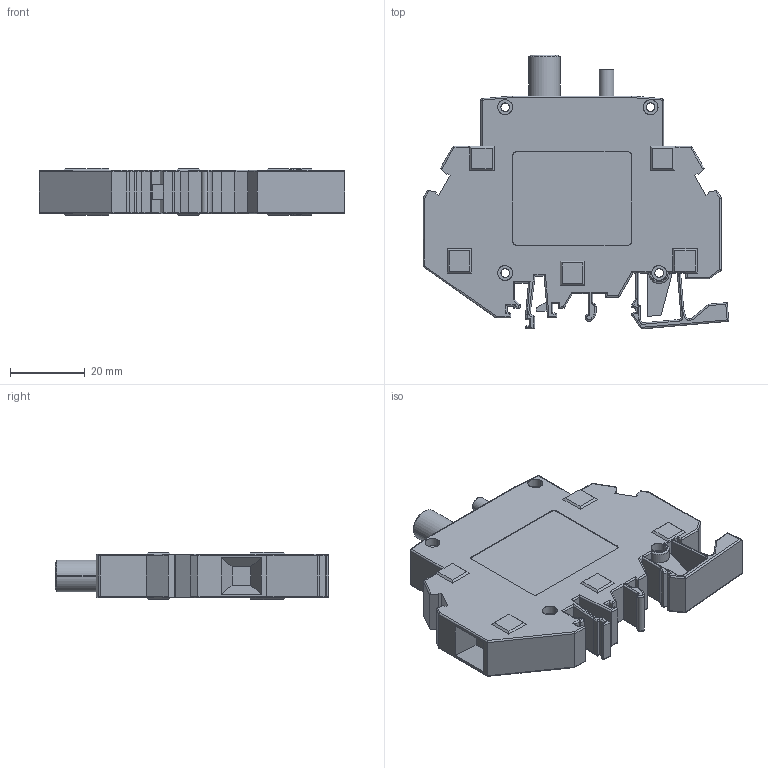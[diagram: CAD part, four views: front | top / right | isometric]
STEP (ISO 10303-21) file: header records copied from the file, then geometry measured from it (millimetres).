
FILE_DESCRIPTION((''),'2;1');
FILE_NAME('1492-GH-PRT','2015-06-12T',('KMKocher'),('Rockwell Automation'),'PRO/ENGINEER BY PARAMETRIC TECHNOLOGY CORPORATION, 2012480','PRO/ENGINEER BY PARAMETRIC TECHNOLOGY CORPORATION, 2012480','');
FILE_SCHEMA(('CONFIG_CONTROL_DESIGN'));
Length unit declared in the file: millimetre
Products named in the file (1): 1492-GH-PRT
Bounding box: 82 x 73.5 x 12.7 mm (x, y, z)
Surface area: 14265.3 mm2 (no closed solid volume)
Topology: 0 solids, 415 shells, 415 faces, 2022 edges, 2022 vertices
Faces by surface type: cylinder 208, plane 187, torus 12, sphere 4, bspline 2, cone 2
Entity records: 22326 total; most frequent: CARTESIAN_POINT 7463, DIRECTION 2596, VERTEX_POINT 2022, ORIENTED_EDGE 2022, EDGE_CURVE 2022, VECTOR 1414, LINE 1414, AXIS2_PLACEMENT_3D 591
